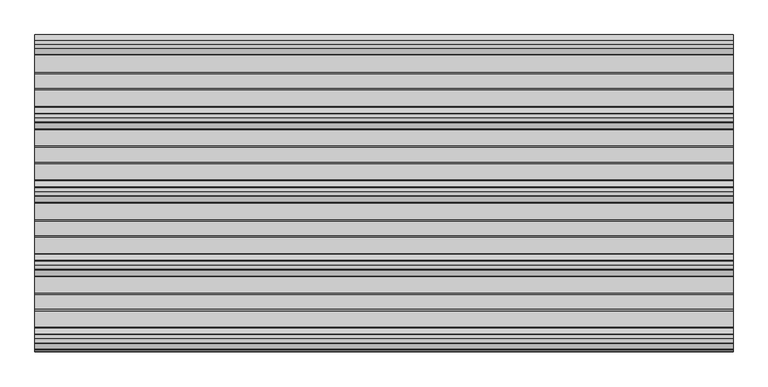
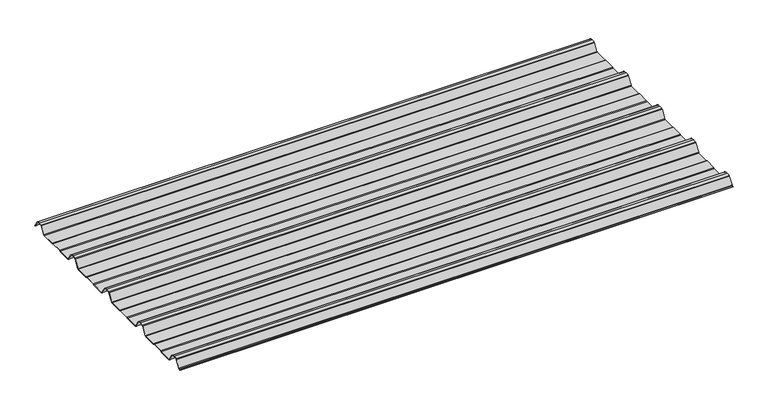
"""IFC4 building model written with IfcOpenShell, lengths in millimetres: beam geometry, 3D_Metalcraft T-Rib1 : 3D_Metalcraft T-Rib 2."""

import ifcopenshell
import ifcopenshell.guid

model = None  # the IFC model being written
_history = None  # IfcOwnerHistory: only IFC2X3 demands one
_inside = {}  # id of a spatial element -> (the spatial element, [elements in it])
_under = {}  # id of a project, library or spatial element -> (it, [spatial elements below it])
_declared = {}  # id of a project -> (the project, [libraries it declares])
_typed = {}  # id of a type object -> (the type object, [elements of that type])
_made_of = {}  # id of a material, layer set ... -> (it, [elements and type objects made of it])


def new_model(schema):
    """Start an empty IFC model of exactly this schema.

    Asked for "IFC4X3", IfcOpenShell would pick the latest addendum, in which some entities
    have other attributes; the version numbers below select the first issue.
    IFC2X3 requires an IfcOwnerHistory on every rooted entity: one is made here for all.
    """
    global model, _history
    if schema == "IFC4X3":
        model = ifcopenshell.file(schema_version=(4, 3, 0, 0))
    else:
        model = ifcopenshell.file(schema=schema)
    _inside.clear()
    _under.clear()
    _declared.clear()
    _typed.clear()
    _made_of.clear()
    _history = None
    if model.schema == "IFC2X3":
        org = make("IfcOrganization", Name="unknown")
        user = make(
            "IfcPersonAndOrganization",
            ThePerson=make("IfcPerson", FamilyName="unknown"),
            TheOrganization=org,
        )
        app = make(
            "IfcApplication",
            ApplicationDeveloper=org,
            Version="unknown",
            ApplicationFullName="unknown",
            ApplicationIdentifier="unknown",
        )
        _history = make(
            "IfcOwnerHistory",
            OwningUser=user,
            OwningApplication=app,
            ChangeAction="ADDED",
            CreationDate=0,
        )
    return model


def make(cls, **values):
    """One entity of the class cls with the attributes given. An attribute that is None is left unset."""
    return model.create_entity(
        cls, **{name: value for name, value in values.items() if value is not None}
    )


def rooted(cls, **values):
    """An entity with a GlobalId (a new one), such as an element, a storey or a relation."""
    return make(cls, GlobalId=ifcopenshell.guid.new(), OwnerHistory=_history, **values)


def si_unit(unit_type, name, prefix=None):
    """IfcSIUnit, for example si_unit("LENGTHUNIT", "METRE", prefix="MILLI")."""
    return make("IfcSIUnit", UnitType=unit_type, Prefix=prefix, Name=name)


def assignment(units):
    """IfcUnitAssignment: the units of a project."""
    return None if units is None else make("IfcUnitAssignment", Units=units)


def point(xyz):
    """IfcCartesianPoint."""
    return None if xyz is None else make("IfcCartesianPoint", Coordinates=xyz)


def direction(xyz):
    """IfcDirection."""
    return None if xyz is None else make("IfcDirection", DirectionRatios=xyz)


def frame(location, z_axis=None, x_axis=None):
    """IfcAxis2Placement3D, a coordinate frame: its origin and axes. An axis left out is left unset."""
    return make(
        "IfcAxis2Placement3D",
        Location=point(location),
        Axis=direction(z_axis),
        RefDirection=direction(x_axis),
    )


def frame_2d(location, x_axis=None):
    """IfcAxis2Placement2D, a coordinate frame in the plane: its origin and x axis."""
    return make(
        "IfcAxis2Placement2D", Location=point(location), RefDirection=direction(x_axis)
    )


def origin():
    """The frame at (0, 0, 0) with its axes left unset."""
    return frame((0.0, 0.0, 0.0))


def place(relative_to, where):
    """IfcLocalPlacement: puts the frame where relative to a parent placement (None: the world)."""
    return make(
        "IfcLocalPlacement", PlacementRelTo=relative_to, RelativePlacement=where
    )


def context(
    kind, dimensions, precision=None, world=None, true_north=None, identifier=None
):
    """IfcGeometricRepresentationContext, for example the 3D "Model" context."""
    return make(
        "IfcGeometricRepresentationContext",
        ContextIdentifier=identifier,
        ContextType=kind,
        CoordinateSpaceDimension=dimensions,
        Precision=precision,
        WorldCoordinateSystem=world,
        TrueNorth=true_north,
    )


def project(units=None, contexts=None):
    """IfcProject with its units and contexts."""
    return rooted(
        "IfcProject",
        Name="project",
        RepresentationContexts=contexts,
        UnitsInContext=assignment(units),
    )


def spatial(cls, under=None, at=None, **own):
    """A site, building, storey or space (cls), placed at a placement, below another one or the project."""
    s = rooted(cls, ObjectPlacement=at, **own)
    if under is not None:
        _under.setdefault(under.id(), (under, []))[1].append(s)
    return s


def polyline(points):
    """IfcPolyline through the points."""
    return make("IfcPolyline", Points=[point(p) for p in points])


def circle_curve(where, radius):
    """IfcCircle in the frame where."""
    return make("IfcCircle", Position=where, Radius=radius)


def trimmed(basis, trim1, trim2, sense, master):
    """IfcTrimmedCurve: the piece of a basis curve between two trims."""
    return make(
        "IfcTrimmedCurve",
        BasisCurve=basis,
        Trim1=trim1,
        Trim2=trim2,
        SenseAgreement=sense,
        MasterRepresentation=master,
    )


def segment(curve, same_sense, transition):
    """IfcCompositeCurveSegment."""
    return make(
        "IfcCompositeCurveSegment",
        Transition=transition,
        SameSense=same_sense,
        ParentCurve=curve,
    )


def composite_curve(segments, self_intersect=None):
    """IfcCompositeCurve: segments joined end to end."""
    return make("IfcCompositeCurve", Segments=segments, SelfIntersect=self_intersect)


def outline(outer, holes=None, kind="AREA"):
    """IfcArbitraryClosedProfileDef: a profile drawn as a closed curve; with holes, ...WithVoids."""
    if holes is None:
        return make("IfcArbitraryClosedProfileDef", ProfileType=kind, OuterCurve=outer)
    return make(
        "IfcArbitraryProfileDefWithVoids",
        ProfileType=kind,
        OuterCurve=outer,
        InnerCurves=holes,
    )


def extrude(swept, where, along, depth):
    """IfcExtrudedAreaSolid: the profile swept, set in the frame where, extruded along a direction by depth."""
    return make(
        "IfcExtrudedAreaSolid",
        SweptArea=swept,
        Position=where,
        ExtrudedDirection=direction(along),
        Depth=depth,
    )


def shape(context_of_items, identifier, shape_type, items):
    """IfcShapeRepresentation: the items that make up one representation, for example the "Body"."""
    return make(
        "IfcShapeRepresentation",
        ContextOfItems=context_of_items,
        RepresentationIdentifier=identifier,
        RepresentationType=shape_type,
        Items=items,
    )


def source(mapping_origin, context_of_items, identifier, shape_type, items):
    """IfcRepresentationMap: a shape defined once, which mapped items show again and again."""
    return make(
        "IfcRepresentationMap",
        MappingOrigin=mapping_origin,
        MappedRepresentation=shape(context_of_items, identifier, shape_type, items),
    )


def transform(
    local_origin,
    x_axis=None,
    y_axis=None,
    z_axis=None,
    scale=None,
    scale2=None,
    scale3=None,
    uniform=True,
):
    """IfcCartesianTransformationOperator3D, or its non-uniform kind. x_axis, y_axis, z_axis: its Axis1, 2, 3."""
    if uniform:
        return make(
            "IfcCartesianTransformationOperator3D",
            Axis1=direction(x_axis),
            Axis2=direction(y_axis),
            LocalOrigin=point(local_origin),
            Scale=scale,
            Axis3=direction(z_axis),
        )
    return make(
        "IfcCartesianTransformationOperator3DnonUniform",
        Axis1=direction(x_axis),
        Axis2=direction(y_axis),
        LocalOrigin=point(local_origin),
        Scale=scale,
        Axis3=direction(z_axis),
        Scale2=scale2,
        Scale3=scale3,
    )


def mapped(mapping_source, mapping_target):
    """IfcMappedItem: shows the shape of a source again, moved by a transform."""
    return make(
        "IfcMappedItem", MappingSource=mapping_source, MappingTarget=mapping_target
    )


def made_of(thing, what):
    """Note that an element or type object is made of a material, layer set ...; save() writes the relation."""
    if what is not None:
        _made_of.setdefault(what.id(), (what, []))[1].append(thing)
    return thing


def element(
    cls,
    number,
    at=None,
    inside=None,
    cuts=None,
    type_object=None,
    material=None,
    context=None,
    identifier="Body",
    shape_type=None,
    held_by="IfcProductDefinitionShape",
    body=None,
    shapes=None,
    **own,
):
    """One element of the class cls, such as IfcWall. Its Tag is "e" and its number.

    at: its placement. inside: the storey or other place that contains it. cuts: it is an
    opening in that element (IfcRelVoidsElement). A single representation is given by context,
    identifier, shape_type and body (its items); several are given by shapes. held_by: the class
    of the entity that holds the representations. save() writes the other relations.
    """
    e = rooted(cls, Tag="e%d" % number, ObjectPlacement=at, **own)
    if body is not None:
        shapes = [shape(context, identifier, shape_type, body)]
    if shapes is not None:
        e.Representation = make(held_by, Representations=shapes)
    if inside is not None:
        _inside.setdefault(inside.id(), (inside, []))[1].append(e)
    if cuts is not None:
        rooted(
            "IfcRelVoidsElement", RelatingBuildingElement=cuts, RelatedOpeningElement=e
        )
    if type_object is not None:
        _typed.setdefault(type_object.id(), (type_object, []))[1].append(e)
    return made_of(e, material)


def aggregate(whole, parts):
    """IfcRelAggregates: a whole, such as a stair, and the parts it consists of."""
    return rooted("IfcRelAggregates", RelatingObject=whole, RelatedObjects=parts)


def save(model, path):
    """Write the relations noted so far, then the file.

    IfcRelAggregates (storeys below a building ...), IfcRelContainedInSpatialStructure (elements
    in a storey), IfcRelDefinesByType, IfcRelAssociatesMaterial and IfcRelDeclares: one each for
    every whole, place, type object, material and project.
    """
    for whole, parts in _under.values():
        aggregate(whole, parts)
    for where, things in _inside.values():
        rooted(
            "IfcRelContainedInSpatialStructure",
            RelatedElements=things,
            RelatingStructure=where,
        )
    for kind, things in _typed.values():
        rooted("IfcRelDefinesByType", RelatedObjects=things, RelatingType=kind)
    for what, things in _made_of.values():
        rooted("IfcRelAssociatesMaterial", RelatedObjects=things, RelatingMaterial=what)
    for by, libraries in _declared.values():
        rooted("IfcRelDeclares", RelatingContext=by, RelatedDefinitions=libraries)
    model.write(path)


def beam_c81321a4(model_context):
    return source(origin(), model_context, "Body", "SweptSolid", [
        extrude(outline(composite_curve([segment(polyline([(-72.2377386, -25.7896475), (-76.3538889, -24.06703), (-113.6461111, -24.06703), (-117.7622614, -25.7896475), (-160.0, -25.7896475)]), True, "CONTINUOUS"), segment(trimmed(circle_curve(frame_2d((-159.2196788, -21.4509358)), 4.4083239), [point((-160.0, -25.7896475))], [point((-162.8209858, -23.9933574))], False, "CARTESIAN"), True, "CONTINUOUS"), segment(polyline([(-162.8209858, -23.9933574), (-178.3273257, -0.5940367)]), True, "CONTINUOUS"), segment(trimmed(circle_curve(frame_2d((-180.8929255, -2.3855242)), 3.1291741), [point((-178.3273257, -0.5940367))], [point((-179.9028031, 0.582874))], True, "CARTESIAN"), True, "CONTINUOUS"), segment(trimmed(circle_curve(frame_2d((-189.9940851, -29.8891871)), 32.0995402), [point((-179.9028031, 0.582874))], [point((-190.0, 2.2103525))], True, "CARTESIAN"), True, "CONTINUOUS"), segment(trimmed(circle_curve(frame_2d((-190.0059149, -29.8891871)), 32.0995402), [point((-190.0, 2.2103525))], [point((-200.0971969, 0.582874))], True, "CARTESIAN"), True, "CONTINUOUS"), segment(trimmed(circle_curve(frame_2d((-199.1070745, -2.3855242)), 3.1291741), [point((-200.0971969, 0.582874))], [point((-201.6726743, -0.5940367))], True, "CARTESIAN"), True, "CONTINUOUS"), segment(polyline([(-201.6726743, -0.5940367), (-217.1790142, -23.9933574)]), True, "CONTINUOUS"), segment(trimmed(circle_curve(frame_2d((-220.7803212, -21.4509358)), 4.4083239), [point((-217.1790142, -23.9933574))], [point((-220.0, -25.7896475))], False, "CARTESIAN"), True, "CONTINUOUS"), segment(polyline([(-220.0, -25.7896475), (-262.2377386, -25.7896475), (-266.3538889, -24.06703), (-303.6461111, -24.06703), (-307.7622614, -25.7896475), (-350.0, -25.7896475)]), True, "CONTINUOUS"), segment(trimmed(circle_curve(frame_2d((-349.2196788, -21.4509358)), 4.4083239), [point((-350.0, -25.7896475))], [point((-352.8209858, -23.9933574))], False, "CARTESIAN"), True, "CONTINUOUS"), segment(polyline([(-352.8209858, -23.9933574), (-368.3273257, -0.5940367)]), True, "CONTINUOUS"), segment(trimmed(circle_curve(frame_2d((-370.8929255, -2.3855242)), 3.1291741), [point((-368.3273257, -0.5940367))], [point((-369.9028031, 0.582874))], True, "CARTESIAN"), True, "CONTINUOUS"), segment(trimmed(circle_curve(frame_2d((-379.9940851, -29.8891871)), 32.0995402), [point((-369.9028031, 0.582874))], [point((-380.0, 2.2103525))], True, "CARTESIAN"), True, "CONTINUOUS"), segment(trimmed(circle_curve(frame_2d((-380.0059149, -29.8891871)), 32.0995402), [point((-380.0, 2.2103525))], [point((-390.0971969, 0.582874))], True, "CARTESIAN"), True, "CONTINUOUS"), segment(trimmed(circle_curve(frame_2d((-389.1070745, -2.3855242)), 3.1291741), [point((-390.0971969, 0.582874))], [point((-391.6726743, -0.5940367))], True, "CARTESIAN"), True, "CONTINUOUS"), segment(polyline([(-391.6726743, -0.5940367), (-407.1790142, -23.9933574)]), True, "CONTINUOUS"), segment(trimmed(circle_curve(frame_2d((-410.7803212, -21.4509358)), 4.4083239), [point((-407.1790142, -23.9933574))], [point((-410.0, -25.7896475))], False, "CARTESIAN"), True, "CONTINUOUS"), segment(polyline([(-410.0, -25.7896475), (-452.2377387, -25.7896475), (-456.3538889, -24.06703), (-493.6461111, -24.06703), (-497.7622614, -25.7896475), (-540.0, -25.7896475)]), True, "CONTINUOUS"), segment(trimmed(circle_curve(frame_2d((-539.2196788, -21.4509358)), 4.4083239), [point((-540.0, -25.7896475))], [point((-542.8209858, -23.9933574))], False, "CARTESIAN"), True, "CONTINUOUS"), segment(polyline([(-542.8209858, -23.9933574), (-558.3273257, -0.5940367)]), True, "CONTINUOUS"), segment(trimmed(circle_curve(frame_2d((-560.8929255, -2.3855242)), 3.1291741), [point((-558.3273257, -0.5940367))], [point((-559.9028031, 0.582874))], True, "CARTESIAN"), True, "CONTINUOUS"), segment(trimmed(circle_curve(frame_2d((-569.9940851, -29.8891871)), 32.0995402), [point((-559.9028031, 0.582874))], [point((-570.0, 2.2103525))], True, "CARTESIAN"), True, "CONTINUOUS"), segment(trimmed(circle_curve(frame_2d((-570.0059149, -29.8891871)), 32.0995402), [point((-570.0, 2.2103525))], [point((-580.0971969, 0.582874))], True, "CARTESIAN"), True, "CONTINUOUS"), segment(trimmed(circle_curve(frame_2d((-579.1070745, -2.3855242)), 3.1291741), [point((-580.0971969, 0.582874))], [point((-581.6726743, -0.5940367))], True, "CARTESIAN"), True, "CONTINUOUS"), segment(polyline([(-581.6726743, -0.5940367), (-597.1790142, -23.9933574)]), True, "CONTINUOUS"), segment(trimmed(circle_curve(frame_2d((-600.7803212, -21.4509358)), 4.4083239), [point((-597.1790142, -23.9933574))], [point((-600.0, -25.7896475))], False, "CARTESIAN"), True, "CONTINUOUS"), segment(polyline([(-600.0, -25.7896475), (-642.2377387, -25.7896475), (-646.3538889, -24.06703), (-683.6461111, -24.06703), (-687.7622614, -25.7896475), (-730.0, -25.7896475)]), True, "CONTINUOUS"), segment(trimmed(circle_curve(frame_2d((-729.2196788, -21.4509358)), 4.4083239), [point((-730.0, -25.7896475))], [point((-732.8209858, -23.9933574))], False, "CARTESIAN"), True, "CONTINUOUS"), segment(polyline([(-732.8209858, -23.9933574), (-748.3273257, -0.5940367)]), True, "CONTINUOUS"), segment(trimmed(circle_curve(frame_2d((-750.8929255, -2.3855242)), 3.1291741), [point((-748.3273257, -0.5940367))], [point((-749.9028031, 0.582874))], True, "CARTESIAN"), True, "CONTINUOUS"), segment(trimmed(circle_curve(frame_2d((-759.9940851, -29.8891871)), 32.0995402), [point((-749.9028031, 0.582874))], [point((-760.0, 2.2103525))], True, "CARTESIAN"), True, "CONTINUOUS"), segment(trimmed(circle_curve(frame_2d((-760.0059149, -29.8891871)), 32.0995402), [point((-760.0, 2.2103525))], [point((-770.0971969, 0.582874))], True, "CARTESIAN"), True, "CONTINUOUS"), segment(trimmed(circle_curve(frame_2d((-769.1070745, -2.3855242)), 3.1291741), [point((-770.0971969, 0.582874))], [point((-771.6726743, -0.5940367))], True, "CARTESIAN"), True, "CONTINUOUS"), segment(polyline([(-771.6726743, -0.5940367), (-785.8536479, -21.993358)]), True, "CONTINUOUS"), segment(trimmed(circle_curve(frame_2d((-789.4549545, -19.4509358)), 4.4083239), [point((-785.8536479, -21.993358))], [point((-788.6746333, -23.7896475))], False, "CARTESIAN"), True, "CONTINUOUS"), segment(polyline([(-788.6746333, -23.7896475), (-792.3232685, -23.7896475)]), True, "CONTINUOUS"), segment(trimmed(circle_curve(frame_2d((-792.3232685, -23.2896475)), 0.5), [point((-792.3232685, -23.7896475))], [point((-792.3232685, -22.7896475))], False, "CARTESIAN"), True, "CONTINUOUS"), segment(polyline([(-792.3232685, -22.7896475), (-788.769625, -22.7896475)]), True, "CONTINUOUS"), segment(trimmed(circle_curve(frame_2d((-789.4549545, -19.4509358)), 3.4083239), [point((-788.769625, -22.7896475))], [point((-786.6785605, -21.42788))], True, "CARTESIAN"), True, "CONTINUOUS"), segment(polyline([(-786.6785605, -21.42788), (-772.5, -0.0322)]), True, "CONTINUOUS"), segment(trimmed(circle_curve(frame_2d((-769.1070745, -2.3855242)), 4.1291741), [point((-772.5, -0.0322))], [point((-770.41253, 1.5318556))], False, "CARTESIAN"), True, "CONTINUOUS"), segment(trimmed(circle_curve(frame_2d((-760.0059149, -29.8891871)), 33.0995402), [point((-770.41253, 1.5318556))], [point((-760.0, 3.2103525))], False, "CARTESIAN"), True, "CONTINUOUS"), segment(trimmed(circle_curve(frame_2d((-759.9940851, -29.8891871)), 33.0995402), [point((-760.0, 3.2103525))], [point((-749.58747, 1.5318556))], False, "CARTESIAN"), True, "CONTINUOUS"), segment(trimmed(circle_curve(frame_2d((-750.8929255, -2.3855242)), 4.1291741), [point((-749.58747, 1.5318556))], [point((-747.5, -0.0322))], False, "CARTESIAN"), True, "CONTINUOUS"), segment(polyline([(-747.5, -0.0322), (-732.1223092, -23.2373872)]), True, "CONTINUOUS"), segment(trimmed(circle_curve(frame_2d((-729.2196788, -21.4509358)), 3.4083239), [point((-732.1223092, -23.2373872))], [point((-729.9050084, -24.7896475))], True, "CARTESIAN"), True, "CONTINUOUS"), segment(polyline([(-729.9050084, -24.7896475), (-687.9630742, -24.7896475), (-683.846924, -23.06703), (-646.1530761, -23.06703), (-642.0369258, -24.7896475), (-600.0949917, -24.7896475)]), True, "CONTINUOUS"), segment(trimmed(circle_curve(frame_2d((-600.7803212, -21.4509358)), 3.4083239), [point((-600.0949917, -24.7896475))], [point((-597.8776908, -23.2373872))], True, "CARTESIAN"), True, "CONTINUOUS"), segment(polyline([(-597.8776908, -23.2373872), (-582.5, -0.0322)]), True, "CONTINUOUS"), segment(trimmed(circle_curve(frame_2d((-579.1070745, -2.3855242)), 4.1291741), [point((-582.5, -0.0322))], [point((-580.41253, 1.5318556))], False, "CARTESIAN"), True, "CONTINUOUS"), segment(trimmed(circle_curve(frame_2d((-570.0059149, -29.8891871)), 33.0995402), [point((-580.41253, 1.5318556))], [point((-570.0, 3.2103525))], False, "CARTESIAN"), True, "CONTINUOUS"), segment(trimmed(circle_curve(frame_2d((-569.9940851, -29.8891871)), 33.0995402), [point((-570.0, 3.2103525))], [point((-559.58747, 1.5318556))], False, "CARTESIAN"), True, "CONTINUOUS"), segment(trimmed(circle_curve(frame_2d((-560.8929255, -2.3855242)), 4.1291741), [point((-559.58747, 1.5318556))], [point((-557.5, -0.0322))], False, "CARTESIAN"), True, "CONTINUOUS"), segment(polyline([(-557.5, -0.0322), (-542.1223092, -23.2373872)]), True, "CONTINUOUS"), segment(trimmed(circle_curve(frame_2d((-539.2196788, -21.4509358)), 3.4083239), [point((-542.1223092, -23.2373872))], [point((-539.9050084, -24.7896475))], True, "CARTESIAN"), True, "CONTINUOUS"), segment(polyline([(-539.9050084, -24.7896475), (-497.9630742, -24.7896475), (-493.846924, -23.06703), (-456.1530761, -23.06703), (-452.0369258, -24.7896475), (-410.0949917, -24.7896475)]), True, "CONTINUOUS"), segment(trimmed(circle_curve(frame_2d((-410.7803212, -21.4509358)), 3.4083239), [point((-410.0949917, -24.7896475))], [point((-407.8776908, -23.2373872))], True, "CARTESIAN"), True, "CONTINUOUS"), segment(polyline([(-407.8776908, -23.2373872), (-392.5, -0.0322)]), True, "CONTINUOUS"), segment(trimmed(circle_curve(frame_2d((-389.1070745, -2.3855242)), 4.1291741), [point((-392.5, -0.0322))], [point((-390.41253, 1.5318556))], False, "CARTESIAN"), True, "CONTINUOUS"), segment(trimmed(circle_curve(frame_2d((-380.0059149, -29.8891871)), 33.0995402), [point((-390.41253, 1.5318556))], [point((-380.0, 3.2103525))], False, "CARTESIAN"), True, "CONTINUOUS"), segment(trimmed(circle_curve(frame_2d((-379.9940851, -29.8891871)), 33.0995402), [point((-380.0, 3.2103525))], [point((-369.58747, 1.5318556))], False, "CARTESIAN"), True, "CONTINUOUS"), segment(trimmed(circle_curve(frame_2d((-370.8929255, -2.3855242)), 4.1291741), [point((-369.58747, 1.5318556))], [point((-367.5, -0.0322))], False, "CARTESIAN"), True, "CONTINUOUS"), segment(polyline([(-367.5, -0.0322), (-352.1223092, -23.2373872)]), True, "CONTINUOUS"), segment(trimmed(circle_curve(frame_2d((-349.2196788, -21.4509358)), 3.4083239), [point((-352.1223092, -23.2373872))], [point((-349.9050084, -24.7896475))], True, "CARTESIAN"), True, "CONTINUOUS"), segment(polyline([(-349.9050084, -24.7896475), (-307.9630742, -24.7896475), (-303.846924, -23.06703), (-266.153076, -23.06703), (-262.0369258, -24.7896475), (-220.0949917, -24.7896475)]), True, "CONTINUOUS"), segment(trimmed(circle_curve(frame_2d((-220.7803212, -21.4509358)), 3.4083239), [point((-220.0949917, -24.7896475))], [point((-217.8776908, -23.2373872))], True, "CARTESIAN"), True, "CONTINUOUS"), segment(polyline([(-217.8776908, -23.2373872), (-202.5, -0.0322)]), True, "CONTINUOUS"), segment(trimmed(circle_curve(frame_2d((-199.1070745, -2.3855242)), 4.1291741), [point((-202.5, -0.0322))], [point((-200.41253, 1.5318556))], False, "CARTESIAN"), True, "CONTINUOUS"), segment(trimmed(circle_curve(frame_2d((-190.0059149, -29.8891871)), 33.0995402), [point((-200.41253, 1.5318556))], [point((-190.0, 3.2103525))], False, "CARTESIAN"), True, "CONTINUOUS"), segment(trimmed(circle_curve(frame_2d((-189.9940851, -29.8891871)), 33.0995402), [point((-190.0, 3.2103525))], [point((-179.58747, 1.5318556))], False, "CARTESIAN"), True, "CONTINUOUS"), segment(trimmed(circle_curve(frame_2d((-180.8929255, -2.3855242)), 4.1291741), [point((-179.58747, 1.5318556))], [point((-177.5, -0.0322))], False, "CARTESIAN"), True, "CONTINUOUS"), segment(polyline([(-177.5, -0.0322), (-162.1223092, -23.2373872)]), True, "CONTINUOUS"), segment(trimmed(circle_curve(frame_2d((-159.2196788, -21.4509358)), 3.4083239), [point((-162.1223092, -23.2373872))], [point((-159.9050084, -24.7896475))], True, "CARTESIAN"), True, "CONTINUOUS"), segment(polyline([(-159.9050084, -24.7896475), (-117.9630742, -24.7896475), (-113.846924, -23.06703), (-76.153076, -23.06703), (-72.0369258, -24.7896475), (-27.6957008, -24.7896475)]), True, "CONTINUOUS"), segment(trimmed(circle_curve(frame_2d((-28.3810303, -21.4509358)), 3.4083239), [point((-27.6957008, -24.7896475))], [point((-25.6046359, -23.4278795))], True, "CARTESIAN"), True, "CONTINUOUS"), segment(polyline([(-25.6046359, -23.4278795), (-10.8390947, -1.146436)]), True, "CONTINUOUS"), segment(trimmed(circle_curve(frame_2d((-9.2408211, -2.2055853)), 1.9173616), [point((-10.8390947, -1.146436))], [point((-9.7828223, -0.366425))], False, "CARTESIAN"), True, "CONTINUOUS"), segment(trimmed(circle_curve(frame_2d((-0.0059149, -29.8891871)), 31.0995402), [point((-9.7828223, -0.366425))], [point((0.0, 1.2103525))], False, "CARTESIAN"), True, "CONTINUOUS"), segment(trimmed(circle_curve(frame_2d((0.0059149, -29.8891871)), 31.0995402), [point((0.0, 1.2103525))], [point((9.7828223, -0.366425))], False, "CARTESIAN"), True, "CONTINUOUS"), segment(trimmed(circle_curve(frame_2d((9.2408211, -2.2055853)), 1.9173616), [point((9.7828223, -0.366425))], [point((10.8390947, -1.146436))], False, "CARTESIAN"), True, "CONTINUOUS"), segment(polyline([(10.8390947, -1.146436), (25.1846039, -22.7940443)]), True, "CONTINUOUS"), segment(trimmed(circle_curve(frame_2d((24.7678141, -23.0702439)), 0.5), [point((25.1846039, -22.7940443))], [point((24.3510243, -23.3464436))], False, "CARTESIAN"), True, "CONTINUOUS"), segment(polyline([(24.3510243, -23.3464436), (10.1734573, -1.9522629)]), True, "CONTINUOUS"), segment(trimmed(circle_curve(frame_2d((8.6614124, -2.9542699)), 1.8139178), [point((10.1734573, -1.9522629))], [point((9.071517, -1.18732))], True, "CARTESIAN"), True, "CONTINUOUS"), segment(trimmed(circle_curve(frame_2d((0.0059149, -29.8891871)), 30.0995402), [point((9.071517, -1.18732))], [point((0.0, 0.2103525))], True, "CARTESIAN"), True, "CONTINUOUS"), segment(trimmed(circle_curve(frame_2d((-0.0059149, -29.8891871)), 30.0995402), [point((0.0, 0.2103525))], [point((-9.071517, -1.18732))], True, "CARTESIAN"), True, "CONTINUOUS"), segment(trimmed(circle_curve(frame_2d((-8.6614124, -2.9542699)), 1.8139178), [point((-9.071517, -1.18732))], [point((-10.1734573, -1.9522629))], True, "CARTESIAN"), True, "CONTINUOUS"), segment(polyline([(-10.1734573, -1.9522629), (-24.7797233, -23.9933574)]), True, "CONTINUOUS"), segment(trimmed(circle_curve(frame_2d((-28.3810303, -21.4509358)), 4.4083239), [point((-24.7797233, -23.9933574))], [point((-27.6007091, -25.7896475))], False, "CARTESIAN"), True, "CONTINUOUS"), segment(polyline([(-27.6007091, -25.7896475), (-72.2377386, -25.7896475)]), True, "CONTINUOUS")], self_intersect=False)), frame((-900.0, 0.0, 0.0), z_axis=(1.0, 0.0, 0.0), x_axis=(0.0, 1.0, 0.0)), (0.0, 0.0, 1.0), 1800.0),
    ])


if __name__ == "__main__":
    model = new_model("IFC4")
    model_context = context("Model", 3, world=origin())
    ifc_project = project(units=[si_unit("LENGTHUNIT", "METRE", prefix="MILLI")], contexts=[model_context])
    site = spatial("IfcSite", under=ifc_project)
    building = spatial("IfcBuilding", under=site)
    placement = place(None, origin())
    beam_shape = beam_c81321a4(model_context)
    element("IfcBeam", 1, ObjectType="3D_Metalcraft T-Rib1 : 3D_Metalcraft T-Rib 2", at=placement, inside=building, context=model_context, shape_type="MappedRepresentation", body=[
        mapped(beam_shape, transform((0.0, 0.0, 0.0), x_axis=(1.0, 0.0, 0.0), y_axis=(0.0, 1.0, 0.0), z_axis=(0.0, 0.0, 1.0))),
    ])
    save(model, "model.ifc")
